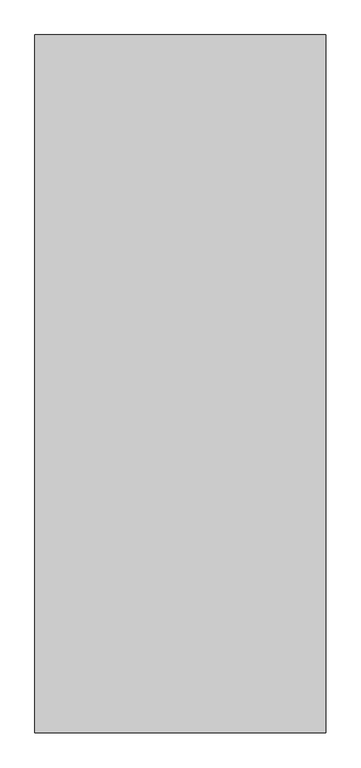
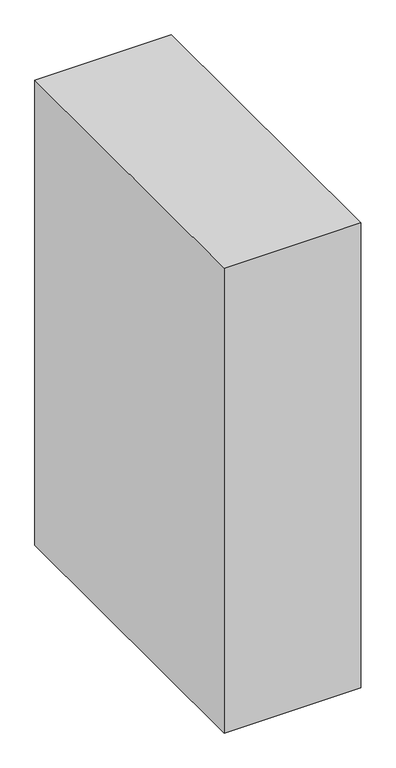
"""IFC4 building model written with IfcOpenShell, lengths in millimetres: proxy geometry, BIMHealth-Cleaner_Trolley_Zone-LOD2A-v1 : BIMHealth-Cleaner_Trolley_Zone-LOD2A-v1."""

from ifc_helpers import new_model, si_unit, origin, origin_with_axes, place, context, project, spatial, polyline, outline, extrude, source, transform, mapped, element, save


def generic_models_2ff25983(model_context):
    return source(origin(), model_context, "Body", "SweptSolid", [
        extrude(outline(polyline([(500.0, 0.0), (500.0, -1200.0), (0.0, -1200.0), (0.0, 0.0), (500.0, 0.0)])), origin_with_axes(), (0.0, 0.0, 1.0), 1800.0),
    ])


if __name__ == "__main__":
    model = new_model("IFC4")
    model_context = context("Model", 3, world=origin())
    ifc_project = project(units=[si_unit("LENGTHUNIT", "METRE", prefix="MILLI")], contexts=[model_context])
    site = spatial("IfcSite", under=ifc_project)
    building = spatial("IfcBuilding", under=site)
    placement = place(None, origin())
    generic_models_shape = generic_models_2ff25983(model_context)
    element("IfcBuildingElementProxy", 1, Name="BIMHealth-Cleaner_Trolley_Zone-LOD2A-v1 : BIMHealth-Cleaner_Trolley_Zone-LOD2A-v1", ObjectType="BIMHealth-Cleaner_Trolley_Zone-LOD2A-v1 : BIMHealth-Cleaner_Trolley_Zone-LOD2A-v1", at=placement, inside=building, context=model_context, shape_type="MappedRepresentation", body=[
        mapped(generic_models_shape, transform((0.0, 0.0, 0.0), x_axis=(1.0, 0.0, 0.0), y_axis=(0.0, 1.0, 0.0), z_axis=(0.0, 0.0, 1.0))),
    ])
    save(model, "model.ifc")
